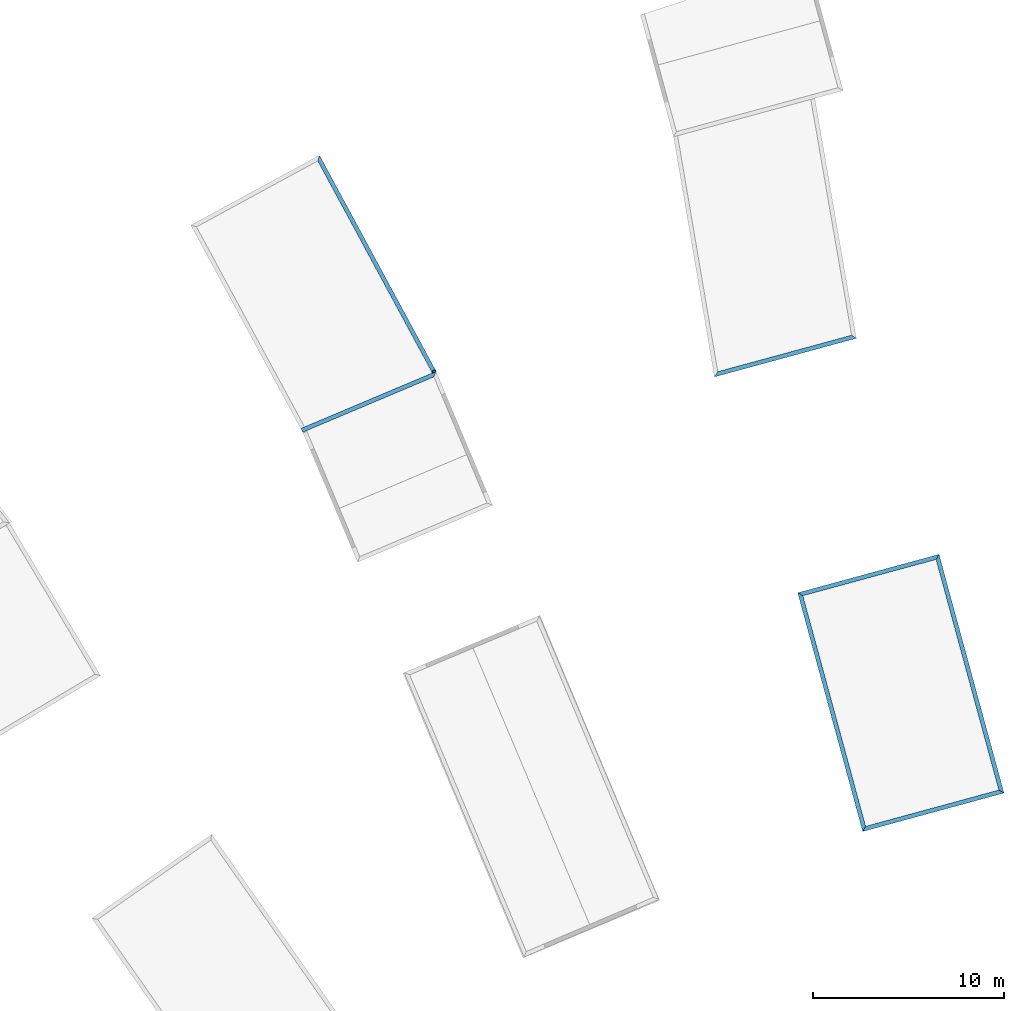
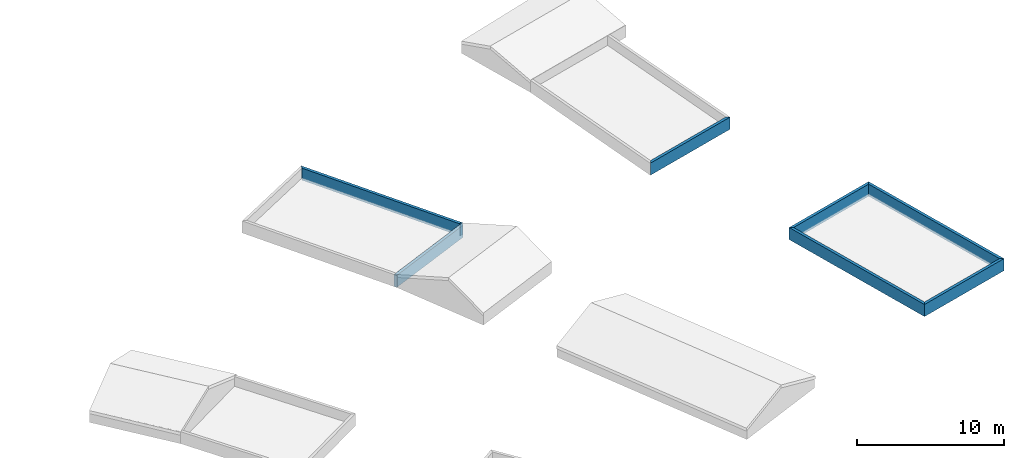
# One storey, part 2 of 4: 8 walls.
"""IFC2X3 building model written with IfcOpenShell, lengths in metres."""

from ifc_helpers import new_model, entity, si_unit, converted_unit, derived_unit, money_unit, direction, frame, origin_with_axes, place, context, subcontext, project, spatial, polyline, outline, extrude, material, layer, layer_set, layer_usage, type_object, element, save


model = new_model("IFC2X3")

# Units and contexts
model_context = context("Model", 3, precision=1e-05, world=origin_with_axes(), true_north=direction((0.0, 1.0)))
body_context = subcontext(model_context, "Body", "Model", "MODEL_VIEW")
ifc_project = project(units=[si_unit("LENGTHUNIT", "METRE"), si_unit("AREAUNIT", "SQUARE_METRE"), si_unit("VOLUMEUNIT", "CUBIC_METRE"), converted_unit("PLANEANGLEUNIT", "DEGREE", entity("IfcPlaneAngleMeasure", 0.0174532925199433), si_unit("PLANEANGLEUNIT", "RADIAN"), dimensions=[0, 0, 0, 0, 0, 0, 0]), money_unit("CHF"), converted_unit("TIMEUNIT", "Year", entity("IfcTimeMeasure", 31557600.0), si_unit("TIMEUNIT", "SECOND"), dimensions=[0, 0, 1, 0, 0, 0, 0]), si_unit("MASSUNIT", "GRAM", prefix="KILO"), si_unit("THERMODYNAMICTEMPERATUREUNIT", "DEGREE_CELSIUS"), si_unit("LUMINOUSINTENSITYUNIT", "LUMEN"), si_unit("ENERGYUNIT", "JOULE", prefix="MEGA"), derived_unit("THERMALCONDUCTANCEUNIT", [(si_unit("POWERUNIT", "WATT"), 1), (si_unit("LENGTHUNIT", "METRE"), -1), (si_unit("THERMODYNAMICTEMPERATUREUNIT", "KELVIN"), -1)]), derived_unit("SPECIFICHEATCAPACITYUNIT", [(si_unit("ENERGYUNIT", "JOULE"), 1), (si_unit("MASSUNIT", "GRAM", prefix="KILO"), -1), (si_unit("THERMODYNAMICTEMPERATUREUNIT", "KELVIN"), -1)]), derived_unit("MASSDENSITYUNIT", [(si_unit("MASSUNIT", "GRAM", prefix="KILO"), 1), (si_unit("VOLUMEUNIT", "CUBIC_METRE"), -1)])], contexts=[model_context])

# Site, building, storey
site_placement = place(None, origin_with_axes())
site = spatial("IfcSite", under=ifc_project, at=site_placement, Name="Site", CompositionType="ELEMENT")
building_placement = place(site_placement, origin_with_axes())
building = spatial("IfcBuilding", under=site, at=building_placement, Name="Bâtiment", CompositionType="ELEMENT")
storey_placement = place(building_placement, frame((0.0, 0.0, 5.5), z_axis=(0.0, 0.0, 1.0), x_axis=(1.0, 0.0, 0.0)))
storey = spatial("IfcBuildingStorey", under=building, at=storey_placement, Name="Etage 2", CompositionType="ELEMENT", Elevation=5.5)

# Walls
ifc_material = material(Name="Empty Fill 3000033799")
ifc_layer = layer(ifc_material, 0.22, ventilated="UNKNOWN")
ifc_layer_set = layer_set([ifc_layer], Name="acrotère 22")
ifc_layer_usage_1 = layer_usage(ifc_layer_set, "AXIS2", "POSITIVE", 0.0)
wall_type = type_object("IfcWallType", Name="acrotère 22 220", PredefinedType="NOTDEFINED")
wall_1_placement = place(storey_placement, frame((9567.393046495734, -1035.332971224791, 57.7), z_axis=(0.0, 0.0, 1.0), x_axis=(-0.9214205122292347, -0.3885669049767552, 0.0)))
element("IfcWallStandardCase", 1, at=wall_1_placement, inside=storey, type_object=wall_type, material=ifc_layer_usage_1, Name="Mur-136", context=body_context, shape_type="SweptSolid", body=[
    extrude(outline(polyline([(3.977902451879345e-10, 0.0), (7.669914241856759, 0.0), (7.669914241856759, 0.2199999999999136), (0.2200000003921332, 0.2199999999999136), (3.977902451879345e-10, 0.0)])), origin_with_axes(), (0.0, 0.0, 1.0), 1.0),
])
ifc_layer_usage_2 = layer_usage(ifc_layer_set, "AXIS2", "POSITIVE", 0.0)
wall_2_placement = place(storey_placement, frame((9589.740388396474, -1059.429674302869, 57.7), z_axis=(0.0, 0.0, 1.0), x_axis=(0.9648682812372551, 0.2627340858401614, 0.0)))
element("IfcWallStandardCase", 2, at=wall_2_placement, inside=storey, type_object=wall_type, material=ifc_layer_usage_2, Name="Mur-136", context=body_context, shape_type="SweptSolid", body=[
    extrude(outline(polyline([(0.0, 0.0), (7.669914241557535, 0.0), (7.449914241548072, 0.2199999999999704), (0.2200061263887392, 0.2199999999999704), (0.0, 0.0)])), origin_with_axes(), (0.0, 0.0, 1.0), 1.0),
])
ifc_layer_usage_3 = layer_usage(ifc_layer_set, "AXIS2", "POSITIVE", 0.0)
wall_3_placement = place(storey_placement, frame((9597.140845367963, -1057.414526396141, 57.7), z_axis=(0.0, 0.0, 1.0), x_axis=(-0.262734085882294, 0.9648682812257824, 0.0)))
element("IfcWallStandardCase", 3, at=wall_3_placement, inside=storey, type_object=wall_type, material=ifc_layer_usage_3, Name="Mur-136", context=body_context, shape_type="SweptSolid", body=[
    extrude(outline(polyline([(0.0, 0.0), (12.95727343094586, 0.0), (12.73727963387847, 0.2200000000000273), (0.2200000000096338, 0.220000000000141), (0.0, 0.0)])), origin_with_axes(), (0.0, 0.0, 1.0), 1.0),
])
ifc_layer_usage_4 = layer_usage(ifc_layer_set, "AXIS2", "POSITIVE", 0.0)
wall_4_placement = place(storey_placement, frame((9593.736527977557, -1044.912464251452, 57.7), z_axis=(0.0, 0.0, 1.0), x_axis=(-0.9648756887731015, -0.2627068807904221, 0.0)))
element("IfcWallStandardCase", 4, at=wall_4_placement, inside=storey, type_object=wall_type, material=ifc_layer_usage_4, Name="Mur-136", context=body_context, shape_type="SweptSolid", body=[
    extrude(outline(polyline([(0.0, 0.0), (7.669553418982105, 0.0), (7.449553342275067, 0.2200000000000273), (0.2199937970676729, 0.2199999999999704), (0.0, 0.0)])), origin_with_axes(), (0.0, 0.0, 1.0), 1.0),
])
ifc_layer_usage_5 = layer_usage(ifc_layer_set, "AXIS2", "POSITIVE", 0.0)
wall_5_placement = place(storey_placement, frame((9586.336362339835, -1046.927308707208, 57.7), z_axis=(0.0, 0.0, 1.0), x_axis=(0.2627072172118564, -0.9648755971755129, 0.0)))
element("IfcWallStandardCase", 5, at=wall_5_placement, inside=storey, type_object=wall_type, material=ifc_layer_usage_5, Name="Mur-136", context=body_context, shape_type="SweptSolid", body=[
    extrude(outline(polyline([(0.0, 0.0), (12.95748968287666, 0.0), (12.73748355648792, 0.2200000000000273), (0.220000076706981, 0.2199999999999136), (0.0, 0.0)])), origin_with_axes(), (0.0, 0.0, 1.0), 1.0),
])
ifc_layer_usage_6 = layer_usage(ifc_layer_set, "AXIS2", "POSITIVE", 0.0)
wall_6_placement = place(storey_placement, frame((9581.97262441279, -1035.621274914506, 57.7), z_axis=(0.0, 0.0, 1.0), x_axis=(0.9648682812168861, 0.2627340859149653, 0.0)))
element("IfcWallStandardCase", 6, at=wall_6_placement, inside=storey, type_object=wall_type, material=ifc_layer_usage_6, Name="Mur-136", context=body_context, shape_type="SweptSolid", body=[
    extrude(outline(polyline([(0.0, 0.0), (7.706368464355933, 0.0), (7.506226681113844, 0.2199999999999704), (0.2425205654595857, 0.2199999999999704), (0.0, 0.0)])), origin_with_axes(), (0.0, 0.0, 1.0), 1.0),
])
ifc_layer_usage_7 = layer_usage(ifc_layer_set, "AXIS2", "POSITIVE", 0.0)
wall_7_placement = place(storey_placement, frame((9567.355218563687, -1035.243268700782, 57.7), z_axis=(0.0, 0.0, 1.0), x_axis=(-0.4753186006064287, 0.8798137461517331, 0.0)))
element("IfcWallStandardCase", 7, at=wall_7_placement, inside=storey, type_object=wall_type, material=ifc_layer_usage_7, Name="Mur-136", context=body_context, shape_type="SweptSolid", body=[
    extrude(outline(polyline([(0.0, 0.0), (12.76934803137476, 0.0), (12.54878288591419, 0.2200000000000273), (0.01059571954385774, 0.2200000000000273), (0.0, 0.0)])), origin_with_axes(), (0.0, 0.0, 1.0), 1.0),
])
ifc_layer_usage_8 = layer_usage(ifc_layer_set, "AXIS2", "POSITIVE", 0.0)
wall_8_placement = place(storey_placement, frame((9567.393046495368, -1035.332971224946, 57.7), z_axis=(0.0, 0.0, 1.0), x_axis=(-0.3885669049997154, 0.9214205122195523, 0.0)))
element("IfcWallStandardCase", 8, at=wall_8_placement, inside=storey, type_object=wall_type, material=ifc_layer_usage_8, Name="Mur-136", context=body_context, shape_type="SweptSolid", body=[
    extrude(outline(polyline([(0.0, 0.0), (0.09735242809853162, 0.0), (0.08675670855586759, 0.2200000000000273), (0.0, 0.2199999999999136), (0.0, 0.0)])), origin_with_axes(), (0.0, 0.0, 1.0), 1.0),
])

save(model, "model.ifc")
